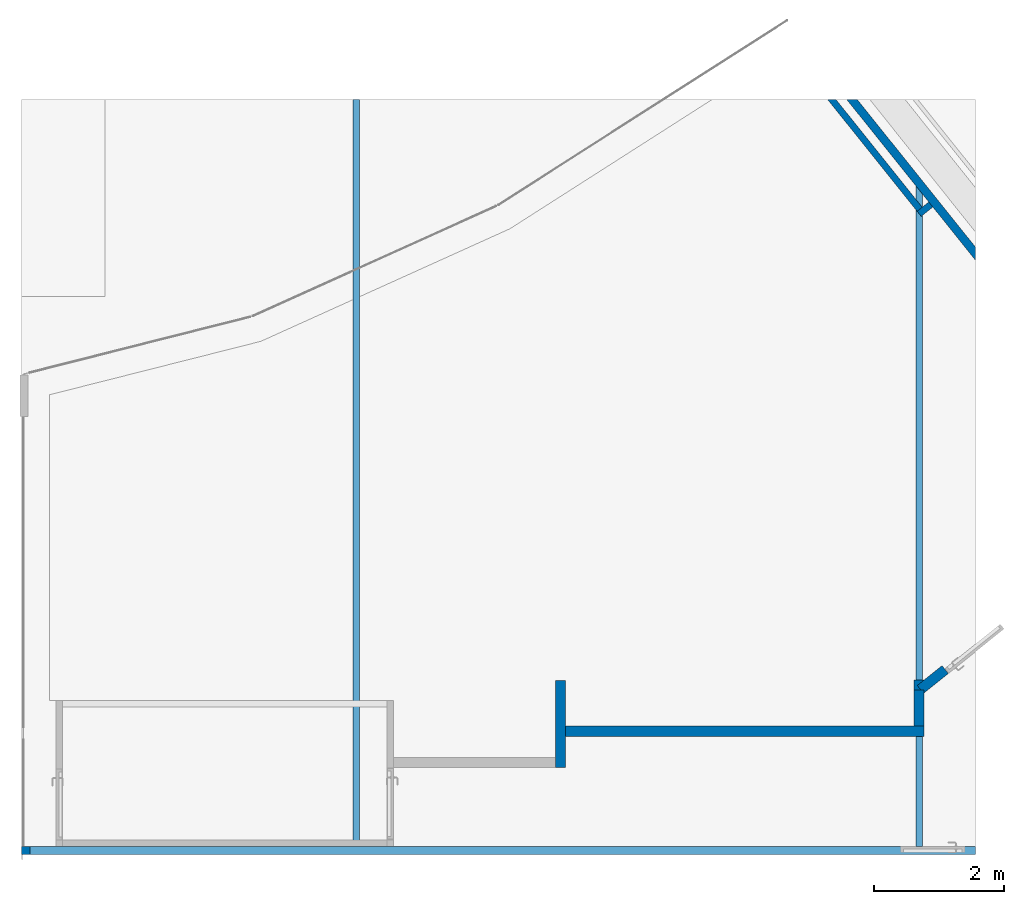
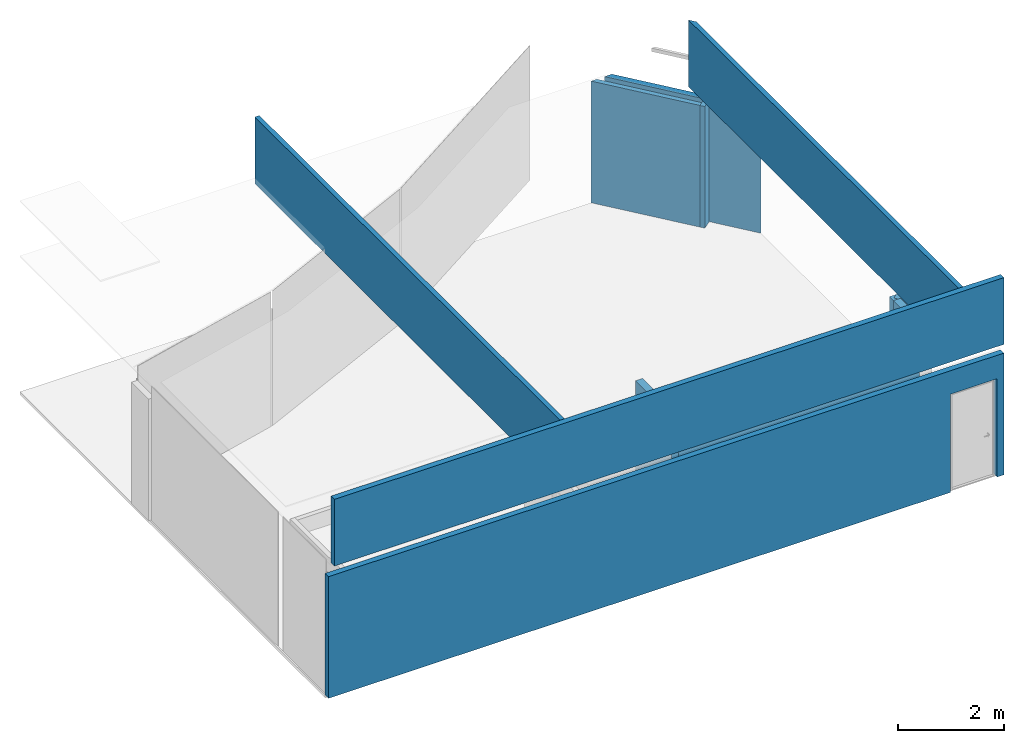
# One storey, part 4 of 7: 12 walls.
"""IFC2X3 building model written with IfcOpenShell, lengths in millimetres."""

from ifc_helpers import new_model, entity, si_unit, converted_unit, derived_unit, direction, frame, frame_2d, origin, origin_with_axes, place, context, subcontext, project, spatial, polyline, rectangle, outline, extrude, clip, bounded_halfspace, faceted_brep, material, layer, layer_set, layer_usage, type_object, element, save


model = new_model("IFC2X3")

# Units and contexts
model_context = context("Model", 3, precision=0.01, world=frame((0.0, 4.29681676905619e-09, 0.0)), true_north=direction((4.01073788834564e-13, 1.0)))
plan_context = context("Plan", 3, precision=0.01, world=frame((0.0, 4.29681676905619e-09, 0.0)), true_north=direction((4.01073788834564e-13, 1.0)))
body_context = subcontext(model_context, "Body", "Model", "MODEL_VIEW")
ifc_project = project(units=[converted_unit("PLANEANGLEUNIT", "DEGREE", entity("IfcPositiveLengthMeasure", 0.0174532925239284), si_unit("PLANEANGLEUNIT", "RADIAN"), dimensions=[0, 0, 0, 0, 0, 0, 0]), si_unit("AREAUNIT", "SQUARE_METRE"), si_unit("LENGTHUNIT", "METRE", prefix="MILLI"), si_unit("MASSUNIT", "GRAM", prefix="KILO"), si_unit("POWERUNIT", "WATT"), si_unit("PRESSUREUNIT", "PASCAL", prefix="KILO"), si_unit("FORCEUNIT", "NEWTON", prefix="KILO"), si_unit("ELECTRICVOLTAGEUNIT", "VOLT"), si_unit("ELECTRICCURRENTUNIT", "AMPERE"), si_unit("THERMODYNAMICTEMPERATUREUNIT", "DEGREE_CELSIUS"), si_unit("TIMEUNIT", "SECOND"), si_unit("VOLUMEUNIT", "CUBIC_METRE"), derived_unit("LINEARVELOCITYUNIT", [(si_unit("LENGTHUNIT", "METRE"), 1), (si_unit("TIMEUNIT", "SECOND"), -1)]), derived_unit("VOLUMETRICFLOWRATEUNIT", [(si_unit("VOLUMEUNIT", "CUBIC_METRE"), 1), (si_unit("TIMEUNIT", "SECOND"), -1)]), derived_unit("THERMALTRANSMITTANCEUNIT", [(si_unit("POWERUNIT", "WATT"), 1), (si_unit("THERMODYNAMICTEMPERATUREUNIT", "KELVIN"), -1), (si_unit("AREAUNIT", "SQUARE_METRE"), -1)]), derived_unit("SOUNDPRESSUREUNIT", [(si_unit("PRESSUREUNIT", "PASCAL"), 1)])], contexts=[model_context, plan_context])

# Site, building, storey
site_placement = place(None, origin_with_axes())
site = spatial("IfcSite", under=ifc_project, at=site_placement, Name="ENGM", CompositionType="ELEMENT")
building_placement = place(site_placement, origin_with_axes())
building = spatial("IfcBuilding", under=site, at=building_placement, Name="TS", CompositionType="ELEMENT")
storey_placement = place(building_placement, frame((0.0, 0.0, 210900.0), z_axis=(0.0, 0.0, 1.0), x_axis=(1.0, 0.0, 0.0)))
storey = spatial("IfcBuildingStorey", under=building, at=storey_placement, Name="Nivå F", CompositionType="ELEMENT", Elevation=210900.0)

# Walls
ifc_material_1 = material(Name="Plate - Gips")
ifc_layer_1 = layer(ifc_material_1, 12.5)
ifc_material_2 = material(Name="_NSW Stålstender, uisolert")
ifc_layer_2 = layer(ifc_material_2, 75.0)
ifc_layer_3 = layer(ifc_material_1, 12.5)
ifc_layer_set_1 = layer_set([ifc_layer_1, ifc_layer_2, ifc_layer_3], Name="Basic Wall:A241 - SVS-75 (75/75 g-g)")
ifc_layer_usage_1 = layer_usage(ifc_layer_set_1, "AXIS2", "NEGATIVE", 50.0)
wall_type_1 = type_object("IfcWallType", Name="Basic Wall:A241 - SVS-75 (75/75 g-g)", PredefinedType="STANDARD", material=ifc_layer_set_1)
wall_1_placement = place(storey_placement, frame((728275.000000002, 444885.403430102, 3000.0), z_axis=(0.0, 0.0, 1.0), x_axis=(0.0, -1.0, 0.0)))
element("IfcWallStandardCase", 1, at=wall_1_placement, inside=storey, type_object=wall_type_1, material=ifc_layer_usage_1, Name="Basic Wall:A241 - SVS-75 (75/75 g-g)", ObjectType="Basic Wall:A241 - SVS-75 (75/75 g-g)", context=body_context, shape_type="SweptSolid", body=[
    extrude(outline(polyline([(10183.403430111, -50.0), (10183.4034301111, 50.0), (124.840434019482, 50.0), (0.0, -50.0), (10183.403430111, -50.0)])), origin(), (0.0, 0.0, 1.0), 1535.00000000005),
])
wall_2_placement = place(storey_placement, frame((719600.000000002, 453175.000000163, 3000.0), z_axis=(0.0, 0.0, 1.0), x_axis=(0.0, -1.0, 0.0)))
element("IfcWall", 2, at=wall_2_placement, inside=storey, type_object=wall_type_1, Name="Basic Wall:A241 - SVS-75 (75/75 g-g)", ObjectType="Basic Wall:A241 - SVS-75 (75/75 g-g)", context=body_context, shape_type="Brep", body=[
    faceted_brep([(18473.0000001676, -50.000000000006, 0.0), (18473.0000001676, -50.000000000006, 1535.00000000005), (18473.0000001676, 50.0000000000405, 1535.00000000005), (18473.0000001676, 50.0000000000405, 0.0), (6963.57553632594, 50.0000000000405, 1535.00000000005), (6963.57553632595, 50.0000000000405, 0.0), (6963.57553632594, -50.000000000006, 0.0), (6963.57553632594, -50.000000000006, 1535.00000000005)], [[[0, 1, 2, 3]], [[4, 5, 3, 2]], [[6, 7, 1, 0]], [[5, 6, 0, 3]], [[7, 4, 2, 1]], [[7, 6, 5, 4]]], orient=[[False], [False], [False], [False], [False], [False]]),
])
ifc_material_3 = material(Name="_NSW Standard")
ifc_layer_4 = layer(ifc_material_3, 13.0)
ifc_layer_5 = layer(ifc_material_2, 100.0)
ifc_layer_6 = layer(ifc_material_1, 13.0)
ifc_layer_set_2 = layer_set([ifc_layer_4, ifc_layer_5, ifc_layer_6], Name="Basic Wall:A241 - MVM-100 (100/100 m-m)")
wall_type_2 = type_object("IfcWallType", Name="Basic Wall:A241 - MVM-100 (100/100 m-m)", PredefinedType="STANDARD", material=ifc_layer_set_2)
wall_3_placement = place(storey_placement, frame((743184.999999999, 434638.999999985, 3000.0), z_axis=(0.0, 0.0, 1.0), x_axis=(-1.0, 0.0, 0.0)))
element("IfcWall", 3, at=wall_3_placement, inside=storey, type_object=wall_type_2, Name="Basic Wall:A241 - MVM-100 (100/100 m-m)", ObjectType="Basic Wall:A241 - MVM-100 (100/100 m-m)", context=body_context, shape_type="Brep", body=[
    faceted_brep([(28617.0124999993, -63.0000000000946, 0.0), (28617.0124999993, -63.0000000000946, 1535.00000000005), (28617.0124999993, 62.9999999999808, 1535.00000000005), (28617.0124999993, 62.9999999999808, 0.0), (14042.4102135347, 62.9999999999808, 1535.00000000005), (14042.4102135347, 62.9999999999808, 0.0), (14042.4102135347, -63.0000000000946, 0.0), (14042.4102135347, -63.0000000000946, 1535.00000000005)], [[[0, 1, 2, 3]], [[4, 5, 3, 2]], [[6, 7, 1, 0]], [[5, 6, 0, 3]], [[7, 4, 2, 1]], [[7, 6, 5, 4]]], orient=[[False], [False], [False], [False], [False], [False]]),
])
wall_4_placement = place(storey_placement, frame((726272.650563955, 447423.495667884, 0.0), z_axis=(0.0, 0.0, 1.0), x_axis=(0.625181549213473, -0.780479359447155, 0.0)))
element("IfcWall", 4, at=wall_4_placement, inside=storey, type_object=wall_type_2, Name="Basic Wall:A241 - MVM-100 (100/100 m-m)", ObjectType="Basic Wall:A241 - MVM-100 (100/100 m-m)", context=body_context, shape_type="Brep", body=[
    faceted_brep([(1502.51861532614, -63.0, 0.0), (1502.51861532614, -63.0, 2799.99999999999), (4669.21876665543, -63.0, 2799.99999999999), (4669.21876665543, -63.0, 0.0), (4511.91981979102, 63.0, 0.0), (4511.91981979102, 63.0, 2799.99999999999), (1603.44745379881, 63.0, 2799.99999999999), (1603.44745379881, 63.0, 0.0)], [[[0, 1, 2, 3]], [[4, 5, 6, 7]], [[3, 4, 7, 0]], [[1, 6, 5, 2]], [[5, 4, 3, 2]], [[7, 6, 1, 0]]], orient=[[False], [False], [False], [False], [False], [False]]),
])
wall_5_placement = place(storey_placement, frame((743122.0, 434638.999999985, 0.0), z_axis=(0.0, 0.0, 1.0), x_axis=(-1.0, 0.0, 0.0)))
element("IfcWall", 5, at=wall_5_placement, inside=storey, type_object=wall_type_2, Name="Basic Wall:A241 - MVM-100 (100/100 m-m)", ObjectType="Basic Wall:A241 - MVM-100 (100/100 m-m)", context=body_context, shape_type="Brep", body=[
    faceted_brep([(13979.4102135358, -63.0000000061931, -3.63797880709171e-12), (13979.4102135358, -63.0000000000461, 2799.99999999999), (28684.0124999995, -63.0000000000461, 2799.99999999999), (28684.0124999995, -63.0000000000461, 0.0), (15140.5374999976, -63.000000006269, -3.63797880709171e-12), (15140.5374999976, -63.000000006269, 2259.99999999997), (14130.5374999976, -63.000000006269, 2259.99999999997), (14130.5374999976, -63.000000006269, -3.63797880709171e-12), (28684.0124999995, 62.9999999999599, 2799.99999999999), (28684.0124999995, 62.9999999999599, 0.0), (13979.4102135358, 62.9999999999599, 2799.99999999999), (13979.4102135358, 62.9999999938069, -3.63797880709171e-12), (14130.5374999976, 62.999999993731, -3.63797880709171e-12), (14130.5374999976, 62.999999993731, 2259.99999999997), (15140.5374999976, 62.999999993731, 2259.99999999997), (15140.5374999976, 62.999999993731, -3.63797880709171e-12)], [[[0, 1, 2, 3, 4, 5, 6, 7]], [[3, 2, 8, 9]], [[10, 11, 12, 13, 14, 15, 9, 8]], [[11, 0, 7, 12]], [[15, 4, 3, 9]], [[1, 10, 8, 2]], [[14, 5, 4, 15]], [[13, 6, 5, 14]], [[12, 7, 6, 13]], [[11, 10, 1, 0]]], orient=[[False], [False], [False], [False], [False], [False], [False], [False], [False], [False]]),
])
ifc_layer_7 = layer(ifc_material_1, 12.5)
ifc_material_4 = material(Name="_NSW X-finer")
ifc_layer_8 = layer(ifc_material_4, 15.0)
ifc_material_5 = material(Name="_NSW Stålstender, isolert UTEN SKRAVUR")
ifc_layer_9 = layer(ifc_material_5, 100.0)
ifc_layer_10 = layer(ifc_material_4, 15.0)
ifc_layer_11 = layer(ifc_material_1, 12.5)
ifc_layer_set_3 = layer_set([ifc_layer_7, ifc_layer_8, ifc_layer_9, ifc_layer_10, ifc_layer_11], Name="Basic Wall:A241 - SXVXS-100")
ifc_layer_usage_2 = layer_usage(ifc_layer_set_3, "AXIS2", "NEGATIVE", 77.5)
wall_type_3 = type_object("IfcWallType", Name="Basic Wall:A241 - SXVXS-100", PredefinedType="STANDARD", material=ifc_layer_set_3)
wall_6_placement = place(storey_placement, frame((722826.987499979, 436476.513671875, 0.0), z_axis=(0.0, 0.0, 1.0), x_axis=(1.0, 0.0, 0.0)))
element("IfcWallStandardCase", 6, at=wall_6_placement, inside=storey, type_object=wall_type_3, material=ifc_layer_usage_2, Name="Basic Wall:A241 - SXVXS-100", ObjectType="Basic Wall:A241 - SXVXS-100", context=body_context, shape_type="SweptSolid", body=[
    extrude(rectangle(XDim=5525.00000000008, YDim=155.000000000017, at=frame_2d((2762.50000000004, 0.0), x_axis=(-1.0, 0.0))), origin(), (0.0, 0.0, 1.0), 2799.99999999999),
])
ifc_layer_usage_3 = layer_usage(ifc_layer_set_3, "AXIS2", "NEGATIVE", 77.5)
wall_7_placement = place(storey_placement, frame((728274.487499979, 436554.013671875, 0.0), z_axis=(0.0, 0.0, 1.0), x_axis=(0.0, 1.0, 0.0)))
element("IfcWallStandardCase", 7, at=wall_7_placement, inside=storey, type_object=wall_type_3, material=ifc_layer_usage_3, Name="Basic Wall:A241 - SXVXS-100", ObjectType="Basic Wall:A241 - SXVXS-100", context=body_context, shape_type="SweptSolid", body=[
    extrude(rectangle(XDim=555.986328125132, YDim=155.000000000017, at=frame_2d((277.993164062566, 0.0), x_axis=(-1.0, 0.0))), origin(), (0.0, 0.0, 1.0), 2799.99999999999),
])
ifc_layer_usage_4 = layer_usage(ifc_layer_set_3, "AXIS2", "NEGATIVE", 77.5)
wall_8_placement = place(storey_placement, frame((722749.487499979, 435914.5, 0.0), z_axis=(0.0, 0.0, 1.0), x_axis=(0.0, 1.0, 0.0)))
element("IfcWallStandardCase", 8, at=wall_8_placement, inside=storey, type_object=wall_type_3, material=ifc_layer_usage_4, Name="Basic Wall:A241 - SXVXS-100", ObjectType="Basic Wall:A241 - SXVXS-100", context=body_context, shape_type="SweptSolid", body=[
    extrude(rectangle(XDim=1347.5000000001, YDim=155.000000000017, at=frame_2d((673.75000000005, 0.0), x_axis=(-1.0, 0.0))), origin(), (0.0, 0.0, 1.0), 2799.99999999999),
])
ifc_layer_usage_5 = layer_usage(ifc_layer_set_3, "AXIS2", "NEGATIVE", 77.5)
wall_9_placement = place(storey_placement, frame((728196.987499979, 437187.5, 0.0), z_axis=(0.0, 0.0, 1.0), x_axis=(1.0, 0.0, 0.0)))
element("IfcWallStandardCase", 9, at=wall_9_placement, inside=storey, type_object=wall_type_3, material=ifc_layer_usage_5, Name="Basic Wall:A241 - SXVXS-100", ObjectType="Basic Wall:A241 - SXVXS-100", context=body_context, shape_type="Clipping", body=[
    clip(clip(extrude(outline(polyline([(0.0, -77.5000000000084), (108.154537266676, -77.5000000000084), (50.8687617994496, -5.9841892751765), (155.090786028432, 77.5000000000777), (0.0, 77.5000000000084), (0.0, -77.5000000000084)])), origin(), (0.0, 0.0, 1.0), 2800.00000000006), bounded_halfspace(frame((50.8687617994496, -5.98418927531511, 2800.0), z_axis=(-0.625181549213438, 0.780479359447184, 0.0), x_axis=(-0.780479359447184, -0.625181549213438, 0.0)), True, frame((50.8687617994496, -5.98418927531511, 2800.0), z_axis=(-0.625181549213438, 0.780479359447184, 0.0), x_axis=(-0.780479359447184, -0.625181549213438, 0.0)), polyline([(0.0, 0.0), (-133.535913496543, 0.0), (-133.535913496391, -2800.0), (0.0, -2800.0), (0.0, 0.0)]))), bounded_halfspace(frame((50.8687617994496, -5.98418927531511, 0.0), z_axis=(-0.780479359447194, -0.625181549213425, 0.0), x_axis=(-0.625181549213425, 0.780479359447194, 0.0)), True, frame((50.8687617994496, -5.98418927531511, 0.0), z_axis=(-0.780479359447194, -0.625181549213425, 0.0), x_axis=(-0.625181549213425, 0.780479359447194, 0.0)), polyline([(0.0, 0.0), (-91.6306239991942, 0.0), (-91.6306239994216, -2800.0), (0.0, -2800.0), (0.0, 0.0)]))),
])
wall_10_placement = place(storey_placement, frame((728296.307831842, 437121.028660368, 0.0), z_axis=(0.0, 0.0, 1.0), x_axis=(0.780479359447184, 0.625181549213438, 0.0)))
element("IfcWall", 10, at=wall_10_placement, inside=storey, type_object=wall_type_3, Name="Basic Wall:A241 - SXVXS-100", ObjectType="Basic Wall:A241 - SXVXS-100", context=body_context, shape_type="Brep", body=[
    faceted_brep([(1146.38973325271, 77.500000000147, 2109.99999999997), (1146.38973325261, 77.5000000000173, 2800.00000000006), (0.0, 77.5000000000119, 2800.00000000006), (0.0, 77.5000000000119, 0.0), (488.489556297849, 77.500000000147, -1.13686837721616e-12), (488.489556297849, 77.500000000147, 2109.99999999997), (0.0, -14.1306239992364, 2800.00000000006), (0.0, -14.1306239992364, 0.0), (1022.23124148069, -77.499999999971, 2800.00000000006), (1022.23124148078, -77.4999999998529, 2109.99999999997), (488.489556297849, -77.4999999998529, 2109.99999999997), (488.489556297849, -77.4999999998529, -1.13686837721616e-12), (9.26110086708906, -77.4999999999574, 0.0), (9.26110086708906, -77.4999999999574, 2800.00000000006), (36.561916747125, -43.4175429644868, 0.0), (36.561916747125, -43.4175429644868, 2800.00000000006)], [[[0, 1, 2, 3, 4, 5]], [[3, 2, 6, 7]], [[8, 9, 10, 11, 12, 13]], [[11, 4, 3, 7, 14, 12]], [[1, 8, 13, 15, 6, 2]], [[9, 0, 5, 10]], [[4, 11, 10, 5]], [[9, 8, 1, 0]]], orient=[[False], [False], [False], [False], [False], [False], [False], [False]]),
])
ifc_material_6 = material(Name="_NSW Isolasjon")
ifc_layer_12 = layer(ifc_material_6, 75.0)
ifc_layer_13 = layer(ifc_material_4, 12.5)
ifc_layer_14 = layer(ifc_material_1, 12.5)
ifc_layer_set_4 = layer_set([ifc_layer_12, ifc_layer_13, ifc_layer_14], Name="Basic Wall:A241 - SXV-75")
ifc_layer_usage_6 = layer_usage(ifc_layer_set_4, "AXIS2", "NEGATIVE", 50.0)
wall_type_4 = type_object("IfcWallType", Name="Basic Wall:A241 - SXV-75", PredefinedType="STANDARD", material=ifc_layer_set_4)
wall_11_placement = place(storey_placement, frame((728277.190469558, 444452.502267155, 0.0), z_axis=(0.0, 0.0, 1.0), x_axis=(0.780479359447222, 0.62518154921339, 0.0)))
element("IfcWallStandardCase", 11, at=wall_11_placement, inside=storey, type_object=wall_type_4, material=ifc_layer_usage_6, Name="Basic Wall:A241 - SXV-75", ObjectType="Basic Wall:A241 - SXV-75", context=body_context, shape_type="SweptSolid", body=[
    extrude(rectangle(XDim=229.908235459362, YDim=100.000000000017, at=frame_2d((114.954117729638, -3.51221274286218e-11), x_axis=(-1.0, 0.0))), origin(), (0.0, 0.0, 1.0), 2799.99999999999),
])
wall_12_placement = place(storey_placement, frame((726675.112870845, 446532.519663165, 0.0), z_axis=(0.0, 0.0, 1.0), x_axis=(0.62518154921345, -0.780479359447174, 0.0)))
element("IfcWall", 12, at=wall_12_placement, inside=storey, type_object=wall_type_4, Name="Basic Wall:A241 - SXV-75", ObjectType="Basic Wall:A241 - SXV-75", context=body_context, shape_type="Brep", body=[
    faceted_brep([(2575.00000000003, -49.999999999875, 0.0), (2575.00000000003, -49.999999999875, 2799.99999999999), (2575.00000000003, 50.0000000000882, 2799.99999999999), (2575.00000000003, 50.0000000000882, 0.0), (451.458802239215, 50.0000000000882, 2799.99999999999), (451.458802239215, 50.0000000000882, 0.0), (371.356549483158, -49.999999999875, 0.0), (371.356549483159, -49.999999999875, 2799.99999999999)], [[[0, 1, 2, 3]], [[4, 5, 3, 2]], [[6, 7, 1, 0]], [[5, 6, 0, 3]], [[7, 4, 2, 1]], [[7, 6, 5, 4]]], orient=[[False], [False], [False], [False], [False], [False]]),
])

save(model, "model.ifc")
